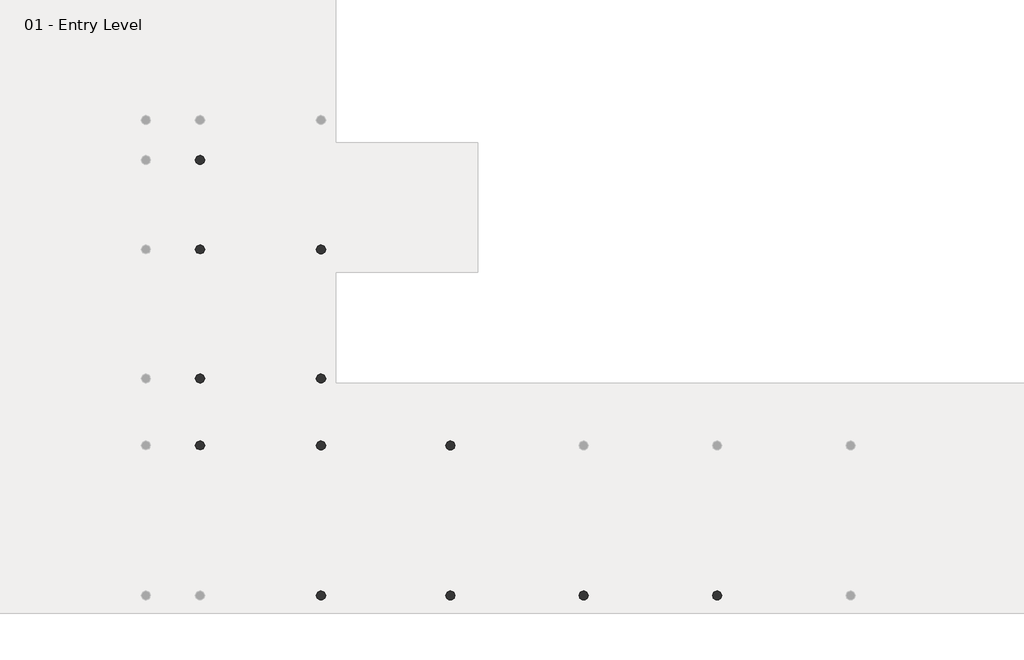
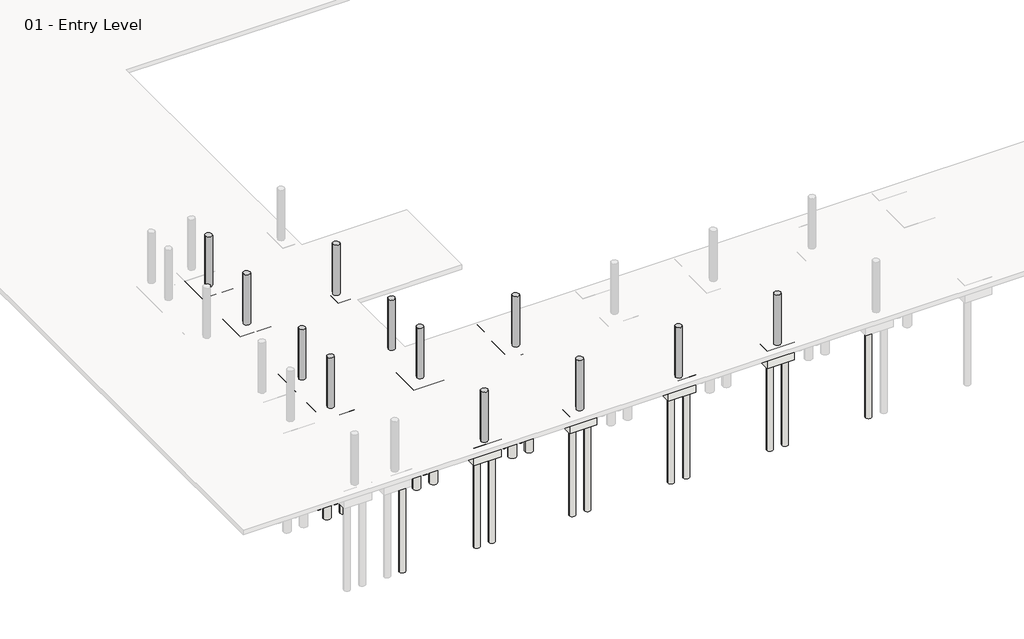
# One storey, part 2 of 6: 51 slabs, 12 columns.
"""IFC4 building model written with IfcOpenShell, lengths in millimetres."""

from ifc_helpers import new_model, si_unit, point, frame, frame_2d, origin, origin_with_axes, place, context, project, spatial, polyline, circle_curve, trimmed, segment, composite_curve, outline, extrude, element, save

model = new_model("IFC4")

# Units and contexts
model_context = context("Model", 3, world=origin())
ifc_project = project(units=[si_unit("LENGTHUNIT", "METRE", prefix="MILLI")], contexts=[model_context])

# Site, building, storey
site = spatial("IfcSite", under=ifc_project)
building = spatial("IfcBuilding", under=site)
storey = spatial("IfcBuildingStorey", under=building, Name="01 - Entry Level", Elevation=0.0)

# Columns
placement = place(None, origin())
element("IfcColumn", 1, ObjectType="M_Concrete-Round-Column : 450mm", at=placement, inside=storey, context=model_context, shape_type="SweptSolid", body=[
    extrude(outline(composite_curve([segment(trimmed(circle_curve(frame_2d((754.8005584, -5769.4613801)), 225.0), [point((979.8005584, -5769.4613801))], [point((529.8005584, -5769.4613801))], False, "CARTESIAN"), True, "CONTINUOUS"), segment(trimmed(circle_curve(frame_2d((754.8005584, -5769.4613801)), 225.0), [point((529.8005584, -5769.4613801))], [point((979.8005584, -5769.4613801))], False, "CARTESIAN"), True, "CONTINUOUS")], self_intersect=False)), origin_with_axes(), (0.0, 0.0, 1.0), 3500.0),
])
element("IfcColumn", 2, ObjectType="M_Concrete-Round-Column : 450mm", at=placement, inside=storey, context=model_context, shape_type="SweptSolid", body=[
    extrude(outline(composite_curve([segment(trimmed(circle_curve(frame_2d((754.8005584, -12068.6613801)), 225.0), [point((979.8005584, -12068.6613801))], [point((529.8005584, -12068.6613801))], False, "CARTESIAN"), True, "CONTINUOUS"), segment(trimmed(circle_curve(frame_2d((754.8005584, -12068.6613801)), 225.0), [point((529.8005584, -12068.6613801))], [point((979.8005584, -12068.6613801))], False, "CARTESIAN"), True, "CONTINUOUS")], self_intersect=False)), origin_with_axes(), (0.0, 0.0, 1.0), 3500.0),
])
element("IfcColumn", 3, ObjectType="M_Concrete-Round-Column : 450mm", at=placement, inside=storey, context=model_context, shape_type="SweptSolid", body=[
    extrude(outline(composite_curve([segment(trimmed(circle_curve(frame_2d((754.8005584, -15319.8613801)), 225.0), [point((979.8005584, -15319.8613801))], [point((529.8005584, -15319.8613801))], False, "CARTESIAN"), True, "CONTINUOUS"), segment(trimmed(circle_curve(frame_2d((754.8005584, -15319.8613801)), 225.0), [point((529.8005584, -15319.8613801))], [point((979.8005584, -15319.8613801))], False, "CARTESIAN"), True, "CONTINUOUS")], self_intersect=False)), origin_with_axes(), (0.0, 0.0, 1.0), 3500.0),
])
element("IfcColumn", 4, ObjectType="M_Concrete-Round-Column : 450mm", at=placement, inside=storey, context=model_context, shape_type="SweptSolid", body=[
    extrude(outline(composite_curve([segment(trimmed(circle_curve(frame_2d((754.8005584, -1413.3613801)), 225.0), [point((979.8005584, -1413.3613801))], [point((529.8005584, -1413.3613801))], False, "CARTESIAN"), True, "CONTINUOUS"), segment(trimmed(circle_curve(frame_2d((754.8005584, -1413.3613801)), 225.0), [point((529.8005584, -1413.3613801))], [point((979.8005584, -1413.3613801))], False, "CARTESIAN"), True, "CONTINUOUS")], self_intersect=False)), origin_with_axes(), (0.0, 0.0, 1.0), 3500.0),
])
element("IfcColumn", 5, ObjectType="M_Concrete-Round-Column : 450mm", at=placement, inside=storey, context=model_context, shape_type="SweptSolid", body=[
    extrude(outline(composite_curve([segment(trimmed(circle_curve(frame_2d((6647.6005584, -5769.4613801)), 225.0), [point((6872.6005584, -5769.4613801))], [point((6422.6005584, -5769.4613801))], False, "CARTESIAN"), True, "CONTINUOUS"), segment(trimmed(circle_curve(frame_2d((6647.6005584, -5769.4613801)), 225.0), [point((6422.6005584, -5769.4613801))], [point((6872.6005584, -5769.4613801))], False, "CARTESIAN"), True, "CONTINUOUS")], self_intersect=False)), origin_with_axes(), (0.0, 0.0, 1.0), 3500.0),
])
element("IfcColumn", 6, ObjectType="M_Concrete-Round-Column : 450mm", at=placement, inside=storey, context=model_context, shape_type="SweptSolid", body=[
    extrude(outline(composite_curve([segment(trimmed(circle_curve(frame_2d((6647.6005584, -12068.6613801)), 225.0), [point((6872.6005584, -12068.6613801))], [point((6422.6005584, -12068.6613801))], False, "CARTESIAN"), True, "CONTINUOUS"), segment(trimmed(circle_curve(frame_2d((6647.6005584, -12068.6613801)), 225.0), [point((6422.6005584, -12068.6613801))], [point((6872.6005584, -12068.6613801))], False, "CARTESIAN"), True, "CONTINUOUS")], self_intersect=False)), origin_with_axes(), (0.0, 0.0, 1.0), 3500.0),
])
element("IfcColumn", 7, ObjectType="M_Concrete-Round-Column : 450mm", at=placement, inside=storey, context=model_context, shape_type="SweptSolid", body=[
    extrude(outline(composite_curve([segment(trimmed(circle_curve(frame_2d((6647.6005584, -15319.8613801)), 225.0), [point((6872.6005584, -15319.8613801))], [point((6422.6005584, -15319.8613801))], False, "CARTESIAN"), True, "CONTINUOUS"), segment(trimmed(circle_curve(frame_2d((6647.6005584, -15319.8613801)), 225.0), [point((6422.6005584, -15319.8613801))], [point((6872.6005584, -15319.8613801))], False, "CARTESIAN"), True, "CONTINUOUS")], self_intersect=False)), origin_with_axes(), (0.0, 0.0, 1.0), 3500.0),
])
element("IfcColumn", 8, ObjectType="M_Concrete-Round-Column : 450mm", at=placement, inside=storey, context=model_context, shape_type="SweptSolid", body=[
    extrude(outline(composite_curve([segment(trimmed(circle_curve(frame_2d((6647.6005584, -22635.0613801)), 225.0), [point((6872.6005584, -22635.0613801))], [point((6422.6005584, -22635.0613801))], False, "CARTESIAN"), True, "CONTINUOUS"), segment(trimmed(circle_curve(frame_2d((6647.6005584, -22635.0613801)), 225.0), [point((6422.6005584, -22635.0613801))], [point((6872.6005584, -22635.0613801))], False, "CARTESIAN"), True, "CONTINUOUS")], self_intersect=False)), origin_with_axes(), (0.0, 0.0, 1.0), 3500.0),
])
element("IfcColumn", 9, ObjectType="M_Concrete-Round-Column : 450mm", at=placement, inside=storey, context=model_context, shape_type="SweptSolid", body=[
    extrude(outline(composite_curve([segment(trimmed(circle_curve(frame_2d((12946.8005584, -15319.8613801)), 225.0), [point((13171.8005584, -15319.8613801))], [point((12721.8005584, -15319.8613801))], False, "CARTESIAN"), True, "CONTINUOUS"), segment(trimmed(circle_curve(frame_2d((12946.8005584, -15319.8613801)), 225.0), [point((12721.8005584, -15319.8613801))], [point((13171.8005584, -15319.8613801))], False, "CARTESIAN"), True, "CONTINUOUS")], self_intersect=False)), origin_with_axes(), (0.0, 0.0, 1.0), 3500.0),
])
element("IfcColumn", 10, ObjectType="M_Concrete-Round-Column : 450mm", at=placement, inside=storey, context=model_context, shape_type="SweptSolid", body=[
    extrude(outline(composite_curve([segment(trimmed(circle_curve(frame_2d((12946.8005584, -22635.0613801)), 225.0), [point((13171.8005584, -22635.0613801))], [point((12721.8005584, -22635.0613801))], False, "CARTESIAN"), True, "CONTINUOUS"), segment(trimmed(circle_curve(frame_2d((12946.8005584, -22635.0613801)), 225.0), [point((12721.8005584, -22635.0613801))], [point((13171.8005584, -22635.0613801))], False, "CARTESIAN"), True, "CONTINUOUS")], self_intersect=False)), origin_with_axes(), (0.0, 0.0, 1.0), 3500.0),
])
element("IfcColumn", 11, ObjectType="M_Concrete-Round-Column : 450mm", at=placement, inside=storey, context=model_context, shape_type="SweptSolid", body=[
    extrude(outline(composite_curve([segment(trimmed(circle_curve(frame_2d((19449.2005584, -22635.0613801)), 225.0), [point((19674.2005584, -22635.0613801))], [point((19224.2005584, -22635.0613801))], False, "CARTESIAN"), True, "CONTINUOUS"), segment(trimmed(circle_curve(frame_2d((19449.2005584, -22635.0613801)), 225.0), [point((19224.2005584, -22635.0613801))], [point((19674.2005584, -22635.0613801))], False, "CARTESIAN"), True, "CONTINUOUS")], self_intersect=False)), origin_with_axes(), (0.0, 0.0, 1.0), 3500.0),
])
element("IfcColumn", 12, ObjectType="M_Concrete-Round-Column : 450mm", at=placement, inside=storey, context=model_context, shape_type="SweptSolid", body=[
    extrude(outline(composite_curve([segment(trimmed(circle_curve(frame_2d((25951.6005584, -22635.0613801)), 225.0), [point((26176.6005584, -22635.0613801))], [point((25726.6005584, -22635.0613801))], False, "CARTESIAN"), True, "CONTINUOUS"), segment(trimmed(circle_curve(frame_2d((25951.6005584, -22635.0613801)), 225.0), [point((25726.6005584, -22635.0613801))], [point((26176.6005584, -22635.0613801))], False, "CARTESIAN"), True, "CONTINUOUS")], self_intersect=False)), origin_with_axes(), (0.0, 0.0, 1.0), 3500.0),
])

# Slabs
element("IfcSlab", 13, ObjectType="M_Pile Cap-2 Pile : 800 x 1800 x 900mm", at=placement, inside=storey, context=model_context, shape_type="SweptSolid", body=[
    extrude(outline(polyline([(7547.6005584, -22235.0613801), (7547.6005584, -23035.0613801), (5747.6005584, -23035.0613801), (5747.6005584, -22235.0613801), (7547.6005584, -22235.0613801)])), frame((0.0, 0.0, -1200.0), z_axis=(0.0, 0.0, 1.0), x_axis=(1.0, 0.0, 0.0)), (0.0, 0.0, 1.0), 1200.0),
])
element("IfcSlab", 14, ObjectType="M_Pile Cap-2 Pile : 800 x 1800 x 900mm", at=placement, inside=storey, context=model_context, shape_type="SweptSolid", body=[
    extrude(outline(polyline([(13846.8005584, -22235.0613801), (13846.8005584, -23035.0613801), (12046.8005584, -23035.0613801), (12046.8005584, -22235.0613801), (13846.8005584, -22235.0613801)])), frame((0.0, 0.0, -1200.0), z_axis=(0.0, 0.0, 1.0), x_axis=(1.0, 0.0, 0.0)), (0.0, 0.0, 1.0), 1200.0),
])
element("IfcSlab", 15, ObjectType="M_Pile Cap-2 Pile : 800 x 1800 x 900mm", at=placement, inside=storey, context=model_context, shape_type="SweptSolid", body=[
    extrude(outline(polyline([(20349.2005584, -22235.0613801), (20349.2005584, -23035.0613801), (18549.2005584, -23035.0613801), (18549.2005584, -22235.0613801), (20349.2005584, -22235.0613801)])), frame((0.0, 0.0, -1200.0), z_axis=(0.0, 0.0, 1.0), x_axis=(1.0, 0.0, 0.0)), (0.0, 0.0, 1.0), 1200.0),
])
element("IfcSlab", 16, ObjectType="M_Pile Cap-2 Pile : 800 x 1800 x 900mm", at=placement, inside=storey, context=model_context, shape_type="SweptSolid", body=[
    extrude(outline(polyline([(26851.6005584, -22235.0613801), (26851.6005584, -23035.0613801), (25051.6005584, -23035.0613801), (25051.6005584, -22235.0613801), (26851.6005584, -22235.0613801)])), frame((0.0, 0.0, -1200.0), z_axis=(0.0, 0.0, 1.0), x_axis=(1.0, 0.0, 0.0)), (0.0, 0.0, 1.0), 1200.0),
])
element("IfcSlab", 17, ObjectType="M_Pile Cap-2 Pile : 800 x 1800 x 900mm", at=placement, inside=storey, context=model_context, shape_type="SweptSolid", body=[
    extrude(outline(polyline([(13846.8005584, -12468.6613801), (13846.8005584, -13268.6613801), (12046.8005584, -13268.6613801), (12046.8005584, -12468.6613801), (13846.8005584, -12468.6613801)])), frame((0.0, 0.0, -1200.0), z_axis=(0.0, 0.0, 1.0), x_axis=(1.0, 0.0, 0.0)), (0.0, 0.0, 1.0), 1200.0),
])
element("IfcSlab", 18, ObjectType="M_Pile Cap-2 Pile : 800 x 1800 x 900mm", at=placement, inside=storey, context=model_context, shape_type="SweptSolid", body=[
    extrude(outline(polyline([(6247.6005584, -11168.6613801), (7047.6005584, -11168.6613801), (7047.6005584, -12968.6613801), (6247.6005584, -12968.6613801), (6247.6005584, -11168.6613801)])), frame((0.0, 0.0, -1200.0), z_axis=(0.0, 0.0, 1.0), x_axis=(1.0, 0.0, 0.0)), (0.0, 0.0, 1.0), 1200.0),
])
element("IfcSlab", 19, ObjectType="M_Pile Cap-2 Pile : 800 x 1800 x 900mm", at=placement, inside=storey, context=model_context, shape_type="SweptSolid", body=[
    extrude(outline(polyline([(6247.6005584, -4869.4613801), (7047.6005584, -4869.4613801), (7047.6005584, -6669.4613801), (6247.6005584, -6669.4613801), (6247.6005584, -4869.4613801)])), frame((0.0, 0.0, -1200.0), z_axis=(0.0, 0.0, 1.0), x_axis=(1.0, 0.0, 0.0)), (0.0, 0.0, 1.0), 1200.0),
])
element("IfcSlab", 20, ObjectType="M_Pile Cap-4 Pile : 2000 x 2000 x 900mm", at=placement, inside=storey, context=model_context, shape_type="SweptSolid", body=[
    extrude(outline(polyline([(7647.6005584, -14319.8613801), (7647.6005584, -16319.8613801), (5647.6005584, -16319.8613801), (5647.6005584, -14319.8613801), (7647.6005584, -14319.8613801)])), frame((0.0, 0.0, -1200.0), z_axis=(0.0, 0.0, 1.0), x_axis=(1.0, 0.0, 0.0)), (0.0, 0.0, 1.0), 1200.0),
])
element("IfcSlab", 21, ObjectType="M_Pile Cap-4 Pile : 2000 x 2000 x 900mm", at=placement, inside=storey, context=model_context, shape_type="SweptSolid", body=[
    extrude(outline(polyline([(13946.8005584, -14319.8613801), (13946.8005584, -16319.8613801), (11946.8005584, -16319.8613801), (11946.8005584, -14319.8613801), (13946.8005584, -14319.8613801)])), frame((0.0, 0.0, -1200.0), z_axis=(0.0, 0.0, 1.0), x_axis=(1.0, 0.0, 0.0)), (0.0, 0.0, 1.0), 1200.0),
])
element("IfcSlab", 22, ObjectType="M_Pile Cap-4 Pile : 2000 x 2000 x 900mm", at=placement, inside=storey, context=model_context, shape_type="SweptSolid", body=[
    extrude(outline(polyline([(1754.8005584, -11068.6613801), (1754.8005584, -13068.6613801), (-245.1994416, -13068.6613801), (-245.1994416, -11068.6613801), (1754.8005584, -11068.6613801)])), frame((0.0, 0.0, -1200.0), z_axis=(0.0, 0.0, 1.0), x_axis=(1.0, 0.0, 0.0)), (0.0, 0.0, 1.0), 1200.0),
])
element("IfcSlab", 23, ObjectType="M_Pile Cap-4 Pile : 2000 x 2000 x 900mm", at=placement, inside=storey, context=model_context, shape_type="SweptSolid", body=[
    extrude(outline(polyline([(1754.8005584, -14319.8613801), (1754.8005584, -16319.8613801), (-245.1994416, -16319.8613801), (-245.1994416, -14319.8613801), (1754.8005584, -14319.8613801)])), frame((0.0, 0.0, -1200.0), z_axis=(0.0, 0.0, 1.0), x_axis=(1.0, 0.0, 0.0)), (0.0, 0.0, 1.0), 1200.0),
])
element("IfcSlab", 24, ObjectType="M_Pile Cap-4 Pile : 2000 x 2000 x 900mm", at=placement, inside=storey, context=model_context, shape_type="SweptSolid", body=[
    extrude(outline(polyline([(1754.8005584, -4769.4613801), (1754.8005584, -6769.4613801), (-245.1994416, -6769.4613801), (-245.1994416, -4769.4613801), (1754.8005584, -4769.4613801)])), frame((0.0, 0.0, -1200.0), z_axis=(0.0, 0.0, 1.0), x_axis=(1.0, 0.0, 0.0)), (0.0, 0.0, 1.0), 1200.0),
])
element("IfcSlab", 25, ObjectType="M_Pile Cap-4 Pile : 2000 x 2000 x 900mm", at=placement, inside=storey, context=model_context, shape_type="SweptSolid", body=[
    extrude(outline(polyline([(1754.8005584, -413.3613801), (1754.8005584, -2413.3613801), (-245.1994416, -2413.3613801), (-245.1994416, -413.3613801), (1754.8005584, -413.3613801)])), frame((0.0, 0.0, -1200.0), z_axis=(0.0, 0.0, 1.0), x_axis=(1.0, 0.0, 0.0)), (0.0, 0.0, 1.0), 1200.0),
])
element("IfcSlab", 26, ObjectType="M_Pile-Steel Pipe : 400mm Diameter", at=placement, inside=storey, context=model_context, shape_type="SweptSolid", body=[
    extrude(outline(composite_curve([segment(trimmed(circle_curve(frame_2d((1254.8005584, -22635.0613801)), 200.0), [point((1054.8005584, -22635.0613801))], [point((1454.8005584, -22635.0613801))], False, "CARTESIAN"), True, "CONTINUOUS"), segment(trimmed(circle_curve(frame_2d((1254.8005584, -22635.0613801)), 200.0), [point((1454.8005584, -22635.0613801))], [point((1054.8005584, -22635.0613801))], False, "CARTESIAN"), True, "CONTINUOUS")], self_intersect=False)), frame((0.0, 0.0, -7200.0), z_axis=(0.0, 0.0, 1.0), x_axis=(1.0, 0.0, 0.0)), (0.0, 0.0, 1.0), 6000.0),
])
element("IfcSlab", 27, ObjectType="M_Pile-Steel Pipe : 400mm Diameter", at=placement, inside=storey, context=model_context, shape_type="SweptSolid", body=[
    extrude(outline(composite_curve([segment(trimmed(circle_curve(frame_2d((6147.6005584, -22635.0613801)), 200.0), [point((5947.6005584, -22635.0613801))], [point((6347.6005584, -22635.0613801))], False, "CARTESIAN"), True, "CONTINUOUS"), segment(trimmed(circle_curve(frame_2d((6147.6005584, -22635.0613801)), 200.0), [point((6347.6005584, -22635.0613801))], [point((5947.6005584, -22635.0613801))], False, "CARTESIAN"), True, "CONTINUOUS")], self_intersect=False)), frame((0.0, 0.0, -7200.0), z_axis=(0.0, 0.0, 1.0), x_axis=(1.0, 0.0, 0.0)), (0.0, 0.0, 1.0), 6000.0),
])
element("IfcSlab", 28, ObjectType="M_Pile-Steel Pipe : 400mm Diameter", at=placement, inside=storey, context=model_context, shape_type="SweptSolid", body=[
    extrude(outline(composite_curve([segment(trimmed(circle_curve(frame_2d((7147.6005584, -22635.0613801)), 200.0), [point((6947.6005584, -22635.0613801))], [point((7347.6005584, -22635.0613801))], False, "CARTESIAN"), True, "CONTINUOUS"), segment(trimmed(circle_curve(frame_2d((7147.6005584, -22635.0613801)), 200.0), [point((7347.6005584, -22635.0613801))], [point((6947.6005584, -22635.0613801))], False, "CARTESIAN"), True, "CONTINUOUS")], self_intersect=False)), frame((0.0, 0.0, -7200.0), z_axis=(0.0, 0.0, 1.0), x_axis=(1.0, 0.0, 0.0)), (0.0, 0.0, 1.0), 6000.0),
])
element("IfcSlab", 29, ObjectType="M_Pile-Steel Pipe : 400mm Diameter", at=placement, inside=storey, context=model_context, shape_type="SweptSolid", body=[
    extrude(outline(composite_curve([segment(trimmed(circle_curve(frame_2d((12446.8005584, -22635.0613801)), 200.0), [point((12246.8005584, -22635.0613801))], [point((12646.8005584, -22635.0613801))], False, "CARTESIAN"), True, "CONTINUOUS"), segment(trimmed(circle_curve(frame_2d((12446.8005584, -22635.0613801)), 200.0), [point((12646.8005584, -22635.0613801))], [point((12246.8005584, -22635.0613801))], False, "CARTESIAN"), True, "CONTINUOUS")], self_intersect=False)), frame((0.0, 0.0, -7200.0), z_axis=(0.0, 0.0, 1.0), x_axis=(1.0, 0.0, 0.0)), (0.0, 0.0, 1.0), 6000.0),
])
element("IfcSlab", 30, ObjectType="M_Pile-Steel Pipe : 400mm Diameter", at=placement, inside=storey, context=model_context, shape_type="SweptSolid", body=[
    extrude(outline(composite_curve([segment(trimmed(circle_curve(frame_2d((13446.8005584, -22635.0613801)), 200.0), [point((13246.8005584, -22635.0613801))], [point((13646.8005584, -22635.0613801))], False, "CARTESIAN"), True, "CONTINUOUS"), segment(trimmed(circle_curve(frame_2d((13446.8005584, -22635.0613801)), 200.0), [point((13646.8005584, -22635.0613801))], [point((13246.8005584, -22635.0613801))], False, "CARTESIAN"), True, "CONTINUOUS")], self_intersect=False)), frame((0.0, 0.0, -7200.0), z_axis=(0.0, 0.0, 1.0), x_axis=(1.0, 0.0, 0.0)), (0.0, 0.0, 1.0), 6000.0),
])
element("IfcSlab", 31, ObjectType="M_Pile-Steel Pipe : 400mm Diameter", at=placement, inside=storey, context=model_context, shape_type="SweptSolid", body=[
    extrude(outline(composite_curve([segment(trimmed(circle_curve(frame_2d((18949.2005584, -22635.0613801)), 200.0), [point((18749.2005584, -22635.0613801))], [point((19149.2005584, -22635.0613801))], False, "CARTESIAN"), True, "CONTINUOUS"), segment(trimmed(circle_curve(frame_2d((18949.2005584, -22635.0613801)), 200.0), [point((19149.2005584, -22635.0613801))], [point((18749.2005584, -22635.0613801))], False, "CARTESIAN"), True, "CONTINUOUS")], self_intersect=False)), frame((0.0, 0.0, -7200.0), z_axis=(0.0, 0.0, 1.0), x_axis=(1.0, 0.0, 0.0)), (0.0, 0.0, 1.0), 6000.0),
])
element("IfcSlab", 32, ObjectType="M_Pile-Steel Pipe : 400mm Diameter", at=placement, inside=storey, context=model_context, shape_type="SweptSolid", body=[
    extrude(outline(composite_curve([segment(trimmed(circle_curve(frame_2d((19949.2005584, -22635.0613801)), 200.0), [point((19749.2005584, -22635.0613801))], [point((20149.2005584, -22635.0613801))], False, "CARTESIAN"), True, "CONTINUOUS"), segment(trimmed(circle_curve(frame_2d((19949.2005584, -22635.0613801)), 200.0), [point((20149.2005584, -22635.0613801))], [point((19749.2005584, -22635.0613801))], False, "CARTESIAN"), True, "CONTINUOUS")], self_intersect=False)), frame((0.0, 0.0, -7200.0), z_axis=(0.0, 0.0, 1.0), x_axis=(1.0, 0.0, 0.0)), (0.0, 0.0, 1.0), 6000.0),
])
element("IfcSlab", 33, ObjectType="M_Pile-Steel Pipe : 400mm Diameter", at=placement, inside=storey, context=model_context, shape_type="SweptSolid", body=[
    extrude(outline(composite_curve([segment(trimmed(circle_curve(frame_2d((25451.6005584, -22635.0613801)), 200.0), [point((25251.6005584, -22635.0613801))], [point((25651.6005584, -22635.0613801))], False, "CARTESIAN"), True, "CONTINUOUS"), segment(trimmed(circle_curve(frame_2d((25451.6005584, -22635.0613801)), 200.0), [point((25651.6005584, -22635.0613801))], [point((25251.6005584, -22635.0613801))], False, "CARTESIAN"), True, "CONTINUOUS")], self_intersect=False)), frame((0.0, 0.0, -7200.0), z_axis=(0.0, 0.0, 1.0), x_axis=(1.0, 0.0, 0.0)), (0.0, 0.0, 1.0), 6000.0),
])
element("IfcSlab", 34, ObjectType="M_Pile-Steel Pipe : 400mm Diameter", at=placement, inside=storey, context=model_context, shape_type="SweptSolid", body=[
    extrude(outline(composite_curve([segment(trimmed(circle_curve(frame_2d((26451.6005584, -22635.0613801)), 200.0), [point((26251.6005584, -22635.0613801))], [point((26651.6005584, -22635.0613801))], False, "CARTESIAN"), True, "CONTINUOUS"), segment(trimmed(circle_curve(frame_2d((26451.6005584, -22635.0613801)), 200.0), [point((26651.6005584, -22635.0613801))], [point((26251.6005584, -22635.0613801))], False, "CARTESIAN"), True, "CONTINUOUS")], self_intersect=False)), frame((0.0, 0.0, -7200.0), z_axis=(0.0, 0.0, 1.0), x_axis=(1.0, 0.0, 0.0)), (0.0, 0.0, 1.0), 6000.0),
])
element("IfcSlab", 35, ObjectType="M_Pile-Steel Pipe : 400mm Diameter", at=placement, inside=storey, context=model_context, shape_type="SweptSolid", body=[
    extrude(outline(composite_curve([segment(trimmed(circle_curve(frame_2d((31954.0005584, -22635.0613801)), 200.0), [point((31754.0005584, -22635.0613801))], [point((32154.0005584, -22635.0613801))], False, "CARTESIAN"), True, "CONTINUOUS"), segment(trimmed(circle_curve(frame_2d((31954.0005584, -22635.0613801)), 200.0), [point((32154.0005584, -22635.0613801))], [point((31754.0005584, -22635.0613801))], False, "CARTESIAN"), True, "CONTINUOUS")], self_intersect=False)), frame((0.0, 0.0, -7200.0), z_axis=(0.0, 0.0, 1.0), x_axis=(1.0, 0.0, 0.0)), (0.0, 0.0, 1.0), 6000.0),
])
element("IfcSlab", 36, ObjectType="M_Pile-Steel Pipe : 400mm Diameter", at=placement, inside=storey, context=model_context, shape_type="SweptSolid", body=[
    extrude(outline(composite_curve([segment(trimmed(circle_curve(frame_2d((12446.8005584, -12868.6613801)), 200.0), [point((12246.8005584, -12868.6613801))], [point((12646.8005584, -12868.6613801))], False, "CARTESIAN"), True, "CONTINUOUS"), segment(trimmed(circle_curve(frame_2d((12446.8005584, -12868.6613801)), 200.0), [point((12646.8005584, -12868.6613801))], [point((12246.8005584, -12868.6613801))], False, "CARTESIAN"), True, "CONTINUOUS")], self_intersect=False)), frame((0.0, 0.0, -7200.0), z_axis=(0.0, 0.0, 1.0), x_axis=(1.0, 0.0, 0.0)), (0.0, 0.0, 1.0), 6000.0),
])
element("IfcSlab", 37, ObjectType="M_Pile-Steel Pipe : 400mm Diameter", at=placement, inside=storey, context=model_context, shape_type="SweptSolid", body=[
    extrude(outline(composite_curve([segment(trimmed(circle_curve(frame_2d((13446.8005584, -12868.6613801)), 200.0), [point((13246.8005584, -12868.6613801))], [point((13646.8005584, -12868.6613801))], False, "CARTESIAN"), True, "CONTINUOUS"), segment(trimmed(circle_curve(frame_2d((13446.8005584, -12868.6613801)), 200.0), [point((13646.8005584, -12868.6613801))], [point((13246.8005584, -12868.6613801))], False, "CARTESIAN"), True, "CONTINUOUS")], self_intersect=False)), frame((0.0, 0.0, -7200.0), z_axis=(0.0, 0.0, 1.0), x_axis=(1.0, 0.0, 0.0)), (0.0, 0.0, 1.0), 6000.0),
])
element("IfcSlab", 38, ObjectType="M_Pile-Steel Pipe : 400mm Diameter", at=placement, inside=storey, context=model_context, shape_type="SweptSolid", body=[
    extrude(outline(composite_curve([segment(trimmed(circle_curve(frame_2d((6647.6005584, -12568.6613801)), 200.0), [point((6647.6005584, -12768.6613801))], [point((6647.6005584, -12368.6613801))], False, "CARTESIAN"), True, "CONTINUOUS"), segment(trimmed(circle_curve(frame_2d((6647.6005584, -12568.6613801)), 200.0), [point((6647.6005584, -12368.6613801))], [point((6647.6005584, -12768.6613801))], False, "CARTESIAN"), True, "CONTINUOUS")], self_intersect=False)), frame((0.0, 0.0, -7200.0), z_axis=(0.0, 0.0, 1.0), x_axis=(1.0, 0.0, 0.0)), (0.0, 0.0, 1.0), 6000.0),
])
element("IfcSlab", 39, ObjectType="M_Pile-Steel Pipe : 400mm Diameter", at=placement, inside=storey, context=model_context, shape_type="SweptSolid", body=[
    extrude(outline(composite_curve([segment(trimmed(circle_curve(frame_2d((6647.6005584, -11568.6613801)), 200.0), [point((6647.6005584, -11768.6613801))], [point((6647.6005584, -11368.6613801))], False, "CARTESIAN"), True, "CONTINUOUS"), segment(trimmed(circle_curve(frame_2d((6647.6005584, -11568.6613801)), 200.0), [point((6647.6005584, -11368.6613801))], [point((6647.6005584, -11768.6613801))], False, "CARTESIAN"), True, "CONTINUOUS")], self_intersect=False)), frame((0.0, 0.0, -7200.0), z_axis=(0.0, 0.0, 1.0), x_axis=(1.0, 0.0, 0.0)), (0.0, 0.0, 1.0), 6000.0),
])
element("IfcSlab", 40, ObjectType="M_Pile-Steel Pipe : 400mm Diameter", at=placement, inside=storey, context=model_context, shape_type="SweptSolid", body=[
    extrude(outline(composite_curve([segment(trimmed(circle_curve(frame_2d((6647.6005584, -6269.4613801)), 200.0), [point((6647.6005584, -6469.4613801))], [point((6647.6005584, -6069.4613801))], False, "CARTESIAN"), True, "CONTINUOUS"), segment(trimmed(circle_curve(frame_2d((6647.6005584, -6269.4613801)), 200.0), [point((6647.6005584, -6069.4613801))], [point((6647.6005584, -6469.4613801))], False, "CARTESIAN"), True, "CONTINUOUS")], self_intersect=False)), frame((0.0, 0.0, -7200.0), z_axis=(0.0, 0.0, 1.0), x_axis=(1.0, 0.0, 0.0)), (0.0, 0.0, 1.0), 6000.0),
])
element("IfcSlab", 41, ObjectType="M_Pile-Steel Pipe : 400mm Diameter", at=placement, inside=storey, context=model_context, shape_type="SweptSolid", body=[
    extrude(outline(composite_curve([segment(trimmed(circle_curve(frame_2d((6647.6005584, -5269.4613801)), 200.0), [point((6647.6005584, -5469.4613801))], [point((6647.6005584, -5069.4613801))], False, "CARTESIAN"), True, "CONTINUOUS"), segment(trimmed(circle_curve(frame_2d((6647.6005584, -5269.4613801)), 200.0), [point((6647.6005584, -5069.4613801))], [point((6647.6005584, -5469.4613801))], False, "CARTESIAN"), True, "CONTINUOUS")], self_intersect=False)), frame((0.0, 0.0, -7200.0), z_axis=(0.0, 0.0, 1.0), x_axis=(1.0, 0.0, 0.0)), (0.0, 0.0, 1.0), 6000.0),
])
element("IfcSlab", 42, ObjectType="M_Pile-Steel Pipe : 500mm Diameter", at=placement, inside=storey, context=model_context, shape_type="SweptSolid", body=[
    extrude(outline(composite_curve([segment(trimmed(circle_curve(frame_2d((6097.6005584, -15869.8613801)), 250.0), [point((5847.6005584, -15869.8613801))], [point((6347.6005584, -15869.8613801))], False, "CARTESIAN"), True, "CONTINUOUS"), segment(trimmed(circle_curve(frame_2d((6097.6005584, -15869.8613801)), 250.0), [point((6347.6005584, -15869.8613801))], [point((5847.6005584, -15869.8613801))], False, "CARTESIAN"), True, "CONTINUOUS")], self_intersect=False)), frame((0.0, 0.0, -7200.0), z_axis=(0.0, 0.0, 1.0), x_axis=(1.0, 0.0, 0.0)), (0.0, 0.0, 1.0), 6000.0),
])
element("IfcSlab", 43, ObjectType="M_Pile-Steel Pipe : 500mm Diameter", at=placement, inside=storey, context=model_context, shape_type="SweptSolid", body=[
    extrude(outline(composite_curve([segment(trimmed(circle_curve(frame_2d((7197.6005584, -15869.8613801)), 250.0), [point((6947.6005584, -15869.8613801))], [point((7447.6005584, -15869.8613801))], False, "CARTESIAN"), True, "CONTINUOUS"), segment(trimmed(circle_curve(frame_2d((7197.6005584, -15869.8613801)), 250.0), [point((7447.6005584, -15869.8613801))], [point((6947.6005584, -15869.8613801))], False, "CARTESIAN"), True, "CONTINUOUS")], self_intersect=False)), frame((0.0, 0.0, -7200.0), z_axis=(0.0, 0.0, 1.0), x_axis=(1.0, 0.0, 0.0)), (0.0, 0.0, 1.0), 6000.0),
])
element("IfcSlab", 44, ObjectType="M_Pile-Steel Pipe : 500mm Diameter", at=placement, inside=storey, context=model_context, shape_type="SweptSolid", body=[
    extrude(outline(composite_curve([segment(trimmed(circle_curve(frame_2d((7197.6005584, -14769.8613801)), 250.0), [point((6947.6005584, -14769.8613801))], [point((7447.6005584, -14769.8613801))], False, "CARTESIAN"), True, "CONTINUOUS"), segment(trimmed(circle_curve(frame_2d((7197.6005584, -14769.8613801)), 250.0), [point((7447.6005584, -14769.8613801))], [point((6947.6005584, -14769.8613801))], False, "CARTESIAN"), True, "CONTINUOUS")], self_intersect=False)), frame((0.0, 0.0, -7200.0), z_axis=(0.0, 0.0, 1.0), x_axis=(1.0, 0.0, 0.0)), (0.0, 0.0, 1.0), 6000.0),
])
element("IfcSlab", 45, ObjectType="M_Pile-Steel Pipe : 500mm Diameter", at=placement, inside=storey, context=model_context, shape_type="SweptSolid", body=[
    extrude(outline(composite_curve([segment(trimmed(circle_curve(frame_2d((6097.6005584, -14769.8613801)), 250.0), [point((5847.6005584, -14769.8613801))], [point((6347.6005584, -14769.8613801))], False, "CARTESIAN"), True, "CONTINUOUS"), segment(trimmed(circle_curve(frame_2d((6097.6005584, -14769.8613801)), 250.0), [point((6347.6005584, -14769.8613801))], [point((5847.6005584, -14769.8613801))], False, "CARTESIAN"), True, "CONTINUOUS")], self_intersect=False)), frame((0.0, 0.0, -7200.0), z_axis=(0.0, 0.0, 1.0), x_axis=(1.0, 0.0, 0.0)), (0.0, 0.0, 1.0), 6000.0),
])
element("IfcSlab", 46, ObjectType="M_Pile-Steel Pipe : 500mm Diameter", at=placement, inside=storey, context=model_context, shape_type="SweptSolid", body=[
    extrude(outline(composite_curve([segment(trimmed(circle_curve(frame_2d((12396.8005584, -15869.8613801)), 250.0), [point((12146.8005584, -15869.8613801))], [point((12646.8005584, -15869.8613801))], False, "CARTESIAN"), True, "CONTINUOUS"), segment(trimmed(circle_curve(frame_2d((12396.8005584, -15869.8613801)), 250.0), [point((12646.8005584, -15869.8613801))], [point((12146.8005584, -15869.8613801))], False, "CARTESIAN"), True, "CONTINUOUS")], self_intersect=False)), frame((0.0, 0.0, -7200.0), z_axis=(0.0, 0.0, 1.0), x_axis=(1.0, 0.0, 0.0)), (0.0, 0.0, 1.0), 6000.0),
])
element("IfcSlab", 47, ObjectType="M_Pile-Steel Pipe : 500mm Diameter", at=placement, inside=storey, context=model_context, shape_type="SweptSolid", body=[
    extrude(outline(composite_curve([segment(trimmed(circle_curve(frame_2d((13496.8005584, -15869.8613801)), 250.0), [point((13246.8005584, -15869.8613801))], [point((13746.8005584, -15869.8613801))], False, "CARTESIAN"), True, "CONTINUOUS"), segment(trimmed(circle_curve(frame_2d((13496.8005584, -15869.8613801)), 250.0), [point((13746.8005584, -15869.8613801))], [point((13246.8005584, -15869.8613801))], False, "CARTESIAN"), True, "CONTINUOUS")], self_intersect=False)), frame((0.0, 0.0, -7200.0), z_axis=(0.0, 0.0, 1.0), x_axis=(1.0, 0.0, 0.0)), (0.0, 0.0, 1.0), 6000.0),
])
element("IfcSlab", 48, ObjectType="M_Pile-Steel Pipe : 500mm Diameter", at=placement, inside=storey, context=model_context, shape_type="SweptSolid", body=[
    extrude(outline(composite_curve([segment(trimmed(circle_curve(frame_2d((13496.8005584, -14769.8613801)), 250.0), [point((13246.8005584, -14769.8613801))], [point((13746.8005584, -14769.8613801))], False, "CARTESIAN"), True, "CONTINUOUS"), segment(trimmed(circle_curve(frame_2d((13496.8005584, -14769.8613801)), 250.0), [point((13746.8005584, -14769.8613801))], [point((13246.8005584, -14769.8613801))], False, "CARTESIAN"), True, "CONTINUOUS")], self_intersect=False)), frame((0.0, 0.0, -7200.0), z_axis=(0.0, 0.0, 1.0), x_axis=(1.0, 0.0, 0.0)), (0.0, 0.0, 1.0), 6000.0),
])
element("IfcSlab", 49, ObjectType="M_Pile-Steel Pipe : 500mm Diameter", at=placement, inside=storey, context=model_context, shape_type="SweptSolid", body=[
    extrude(outline(composite_curve([segment(trimmed(circle_curve(frame_2d((12396.8005584, -14769.8613801)), 250.0), [point((12146.8005584, -14769.8613801))], [point((12646.8005584, -14769.8613801))], False, "CARTESIAN"), True, "CONTINUOUS"), segment(trimmed(circle_curve(frame_2d((12396.8005584, -14769.8613801)), 250.0), [point((12646.8005584, -14769.8613801))], [point((12146.8005584, -14769.8613801))], False, "CARTESIAN"), True, "CONTINUOUS")], self_intersect=False)), frame((0.0, 0.0, -7200.0), z_axis=(0.0, 0.0, 1.0), x_axis=(1.0, 0.0, 0.0)), (0.0, 0.0, 1.0), 6000.0),
])
element("IfcSlab", 50, ObjectType="M_Pile-Steel Pipe : 500mm Diameter", at=placement, inside=storey, context=model_context, shape_type="SweptSolid", body=[
    extrude(outline(composite_curve([segment(trimmed(circle_curve(frame_2d((204.8005584, -12618.6613801)), 250.0), [point((-45.1994416, -12618.6613801))], [point((454.8005584, -12618.6613801))], False, "CARTESIAN"), True, "CONTINUOUS"), segment(trimmed(circle_curve(frame_2d((204.8005584, -12618.6613801)), 250.0), [point((454.8005584, -12618.6613801))], [point((-45.1994416, -12618.6613801))], False, "CARTESIAN"), True, "CONTINUOUS")], self_intersect=False)), frame((0.0, 0.0, -7200.0), z_axis=(0.0, 0.0, 1.0), x_axis=(1.0, 0.0, 0.0)), (0.0, 0.0, 1.0), 6000.0),
])
element("IfcSlab", 51, ObjectType="M_Pile-Steel Pipe : 500mm Diameter", at=placement, inside=storey, context=model_context, shape_type="SweptSolid", body=[
    extrude(outline(composite_curve([segment(trimmed(circle_curve(frame_2d((1304.8005584, -12618.6613801)), 250.0), [point((1054.8005584, -12618.6613801))], [point((1554.8005584, -12618.6613801))], False, "CARTESIAN"), True, "CONTINUOUS"), segment(trimmed(circle_curve(frame_2d((1304.8005584, -12618.6613801)), 250.0), [point((1554.8005584, -12618.6613801))], [point((1054.8005584, -12618.6613801))], False, "CARTESIAN"), True, "CONTINUOUS")], self_intersect=False)), frame((0.0, 0.0, -7200.0), z_axis=(0.0, 0.0, 1.0), x_axis=(1.0, 0.0, 0.0)), (0.0, 0.0, 1.0), 6000.0),
])
element("IfcSlab", 52, ObjectType="M_Pile-Steel Pipe : 500mm Diameter", at=placement, inside=storey, context=model_context, shape_type="SweptSolid", body=[
    extrude(outline(composite_curve([segment(trimmed(circle_curve(frame_2d((1304.8005584, -11518.6613801)), 250.0), [point((1054.8005584, -11518.6613801))], [point((1554.8005584, -11518.6613801))], False, "CARTESIAN"), True, "CONTINUOUS"), segment(trimmed(circle_curve(frame_2d((1304.8005584, -11518.6613801)), 250.0), [point((1554.8005584, -11518.6613801))], [point((1054.8005584, -11518.6613801))], False, "CARTESIAN"), True, "CONTINUOUS")], self_intersect=False)), frame((0.0, 0.0, -7200.0), z_axis=(0.0, 0.0, 1.0), x_axis=(1.0, 0.0, 0.0)), (0.0, 0.0, 1.0), 6000.0),
])
element("IfcSlab", 53, ObjectType="M_Pile-Steel Pipe : 500mm Diameter", at=placement, inside=storey, context=model_context, shape_type="SweptSolid", body=[
    extrude(outline(composite_curve([segment(trimmed(circle_curve(frame_2d((204.8005584, -11518.6613801)), 250.0), [point((-45.1994416, -11518.6613801))], [point((454.8005584, -11518.6613801))], False, "CARTESIAN"), True, "CONTINUOUS"), segment(trimmed(circle_curve(frame_2d((204.8005584, -11518.6613801)), 250.0), [point((454.8005584, -11518.6613801))], [point((-45.1994416, -11518.6613801))], False, "CARTESIAN"), True, "CONTINUOUS")], self_intersect=False)), frame((0.0, 0.0, -7200.0), z_axis=(0.0, 0.0, 1.0), x_axis=(1.0, 0.0, 0.0)), (0.0, 0.0, 1.0), 6000.0),
])
element("IfcSlab", 54, ObjectType="M_Pile-Steel Pipe : 500mm Diameter", at=placement, inside=storey, context=model_context, shape_type="SweptSolid", body=[
    extrude(outline(composite_curve([segment(trimmed(circle_curve(frame_2d((204.8005584, -15869.8613801)), 250.0), [point((-45.1994416, -15869.8613801))], [point((454.8005584, -15869.8613801))], False, "CARTESIAN"), True, "CONTINUOUS"), segment(trimmed(circle_curve(frame_2d((204.8005584, -15869.8613801)), 250.0), [point((454.8005584, -15869.8613801))], [point((-45.1994416, -15869.8613801))], False, "CARTESIAN"), True, "CONTINUOUS")], self_intersect=False)), frame((0.0, 0.0, -7200.0), z_axis=(0.0, 0.0, 1.0), x_axis=(1.0, 0.0, 0.0)), (0.0, 0.0, 1.0), 6000.0),
])
element("IfcSlab", 55, ObjectType="M_Pile-Steel Pipe : 500mm Diameter", at=placement, inside=storey, context=model_context, shape_type="SweptSolid", body=[
    extrude(outline(composite_curve([segment(trimmed(circle_curve(frame_2d((1304.8005584, -15869.8613801)), 250.0), [point((1054.8005584, -15869.8613801))], [point((1554.8005584, -15869.8613801))], False, "CARTESIAN"), True, "CONTINUOUS"), segment(trimmed(circle_curve(frame_2d((1304.8005584, -15869.8613801)), 250.0), [point((1554.8005584, -15869.8613801))], [point((1054.8005584, -15869.8613801))], False, "CARTESIAN"), True, "CONTINUOUS")], self_intersect=False)), frame((0.0, 0.0, -7200.0), z_axis=(0.0, 0.0, 1.0), x_axis=(1.0, 0.0, 0.0)), (0.0, 0.0, 1.0), 6000.0),
])
element("IfcSlab", 56, ObjectType="M_Pile-Steel Pipe : 500mm Diameter", at=placement, inside=storey, context=model_context, shape_type="SweptSolid", body=[
    extrude(outline(composite_curve([segment(trimmed(circle_curve(frame_2d((1304.8005584, -14769.8613801)), 250.0), [point((1054.8005584, -14769.8613801))], [point((1554.8005584, -14769.8613801))], False, "CARTESIAN"), True, "CONTINUOUS"), segment(trimmed(circle_curve(frame_2d((1304.8005584, -14769.8613801)), 250.0), [point((1554.8005584, -14769.8613801))], [point((1054.8005584, -14769.8613801))], False, "CARTESIAN"), True, "CONTINUOUS")], self_intersect=False)), frame((0.0, 0.0, -7200.0), z_axis=(0.0, 0.0, 1.0), x_axis=(1.0, 0.0, 0.0)), (0.0, 0.0, 1.0), 6000.0),
])
element("IfcSlab", 57, ObjectType="M_Pile-Steel Pipe : 500mm Diameter", at=placement, inside=storey, context=model_context, shape_type="SweptSolid", body=[
    extrude(outline(composite_curve([segment(trimmed(circle_curve(frame_2d((204.8005584, -14769.8613801)), 250.0), [point((-45.1994416, -14769.8613801))], [point((454.8005584, -14769.8613801))], False, "CARTESIAN"), True, "CONTINUOUS"), segment(trimmed(circle_curve(frame_2d((204.8005584, -14769.8613801)), 250.0), [point((454.8005584, -14769.8613801))], [point((-45.1994416, -14769.8613801))], False, "CARTESIAN"), True, "CONTINUOUS")], self_intersect=False)), frame((0.0, 0.0, -7200.0), z_axis=(0.0, 0.0, 1.0), x_axis=(1.0, 0.0, 0.0)), (0.0, 0.0, 1.0), 6000.0),
])
element("IfcSlab", 58, ObjectType="M_Pile-Steel Pipe : 500mm Diameter", at=placement, inside=storey, context=model_context, shape_type="SweptSolid", body=[
    extrude(outline(composite_curve([segment(trimmed(circle_curve(frame_2d((204.8005584, -6319.4613801)), 250.0), [point((-45.1994416, -6319.4613801))], [point((454.8005584, -6319.4613801))], False, "CARTESIAN"), True, "CONTINUOUS"), segment(trimmed(circle_curve(frame_2d((204.8005584, -6319.4613801)), 250.0), [point((454.8005584, -6319.4613801))], [point((-45.1994416, -6319.4613801))], False, "CARTESIAN"), True, "CONTINUOUS")], self_intersect=False)), frame((0.0, 0.0, -7200.0), z_axis=(0.0, 0.0, 1.0), x_axis=(1.0, 0.0, 0.0)), (0.0, 0.0, 1.0), 6000.0),
])
element("IfcSlab", 59, ObjectType="M_Pile-Steel Pipe : 500mm Diameter", at=placement, inside=storey, context=model_context, shape_type="SweptSolid", body=[
    extrude(outline(composite_curve([segment(trimmed(circle_curve(frame_2d((1304.8005584, -6319.4613801)), 250.0), [point((1054.8005584, -6319.4613801))], [point((1554.8005584, -6319.4613801))], False, "CARTESIAN"), True, "CONTINUOUS"), segment(trimmed(circle_curve(frame_2d((1304.8005584, -6319.4613801)), 250.0), [point((1554.8005584, -6319.4613801))], [point((1054.8005584, -6319.4613801))], False, "CARTESIAN"), True, "CONTINUOUS")], self_intersect=False)), frame((0.0, 0.0, -7200.0), z_axis=(0.0, 0.0, 1.0), x_axis=(1.0, 0.0, 0.0)), (0.0, 0.0, 1.0), 6000.0),
])
element("IfcSlab", 60, ObjectType="M_Pile-Steel Pipe : 500mm Diameter", at=placement, inside=storey, context=model_context, shape_type="SweptSolid", body=[
    extrude(outline(composite_curve([segment(trimmed(circle_curve(frame_2d((1304.8005584, -5219.4613801)), 250.0), [point((1054.8005584, -5219.4613801))], [point((1554.8005584, -5219.4613801))], False, "CARTESIAN"), True, "CONTINUOUS"), segment(trimmed(circle_curve(frame_2d((1304.8005584, -5219.4613801)), 250.0), [point((1554.8005584, -5219.4613801))], [point((1054.8005584, -5219.4613801))], False, "CARTESIAN"), True, "CONTINUOUS")], self_intersect=False)), frame((0.0, 0.0, -7200.0), z_axis=(0.0, 0.0, 1.0), x_axis=(1.0, 0.0, 0.0)), (0.0, 0.0, 1.0), 6000.0),
])
element("IfcSlab", 61, ObjectType="M_Pile-Steel Pipe : 500mm Diameter", at=placement, inside=storey, context=model_context, shape_type="SweptSolid", body=[
    extrude(outline(composite_curve([segment(trimmed(circle_curve(frame_2d((204.8005584, -5219.4613801)), 250.0), [point((-45.1994416, -5219.4613801))], [point((454.8005584, -5219.4613801))], False, "CARTESIAN"), True, "CONTINUOUS"), segment(trimmed(circle_curve(frame_2d((204.8005584, -5219.4613801)), 250.0), [point((454.8005584, -5219.4613801))], [point((-45.1994416, -5219.4613801))], False, "CARTESIAN"), True, "CONTINUOUS")], self_intersect=False)), frame((0.0, 0.0, -7200.0), z_axis=(0.0, 0.0, 1.0), x_axis=(1.0, 0.0, 0.0)), (0.0, 0.0, 1.0), 6000.0),
])
element("IfcSlab", 62, ObjectType="M_Pile-Steel Pipe : 500mm Diameter", at=placement, inside=storey, context=model_context, shape_type="SweptSolid", body=[
    extrude(outline(composite_curve([segment(trimmed(circle_curve(frame_2d((204.8005584, -1963.3613801)), 250.0), [point((-45.1994416, -1963.3613801))], [point((454.8005584, -1963.3613801))], False, "CARTESIAN"), True, "CONTINUOUS"), segment(trimmed(circle_curve(frame_2d((204.8005584, -1963.3613801)), 250.0), [point((454.8005584, -1963.3613801))], [point((-45.1994416, -1963.3613801))], False, "CARTESIAN"), True, "CONTINUOUS")], self_intersect=False)), frame((0.0, 0.0, -7200.0), z_axis=(0.0, 0.0, 1.0), x_axis=(1.0, 0.0, 0.0)), (0.0, 0.0, 1.0), 6000.0),
])
element("IfcSlab", 63, ObjectType="M_Pile-Steel Pipe : 500mm Diameter", at=placement, inside=storey, context=model_context, shape_type="SweptSolid", body=[
    extrude(outline(composite_curve([segment(trimmed(circle_curve(frame_2d((1304.8005584, -1963.3613801)), 250.0), [point((1054.8005584, -1963.3613801))], [point((1554.8005584, -1963.3613801))], False, "CARTESIAN"), True, "CONTINUOUS"), segment(trimmed(circle_curve(frame_2d((1304.8005584, -1963.3613801)), 250.0), [point((1554.8005584, -1963.3613801))], [point((1054.8005584, -1963.3613801))], False, "CARTESIAN"), True, "CONTINUOUS")], self_intersect=False)), frame((0.0, 0.0, -7200.0), z_axis=(0.0, 0.0, 1.0), x_axis=(1.0, 0.0, 0.0)), (0.0, 0.0, 1.0), 6000.0),
])

save(model, "model.ifc")
